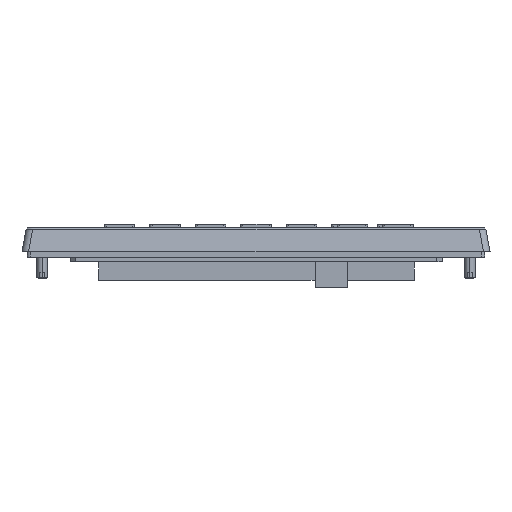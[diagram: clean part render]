
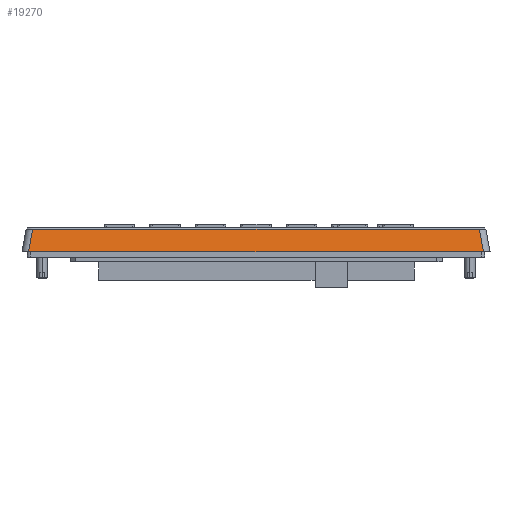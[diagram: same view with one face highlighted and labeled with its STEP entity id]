
A CAD part, left-side view. The second image highlights one B-rep face of the part: STEP entity #19270.
In plain terms, the highlighted planar face has unit normal (-0.985, 0, 0.174).
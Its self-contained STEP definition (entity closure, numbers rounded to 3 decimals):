
#2710=CARTESIAN_POINT('',(-51.32,93.559,
58.158));
#2720=VERTEX_POINT('',#2710);
#2750=CARTESIAN_POINT('',(-51.32,93.559,
58.158));
#2760=CARTESIAN_POINT('',(-51.32,93.588,
58.158));
#2770=CARTESIAN_POINT('',(-51.32,93.622,
58.158));
#2780=CARTESIAN_POINT('',(-51.32,121.464,
58.158));
#2790=CARTESIAN_POINT('',(-51.32,149.28,
58.158));
#2800=CARTESIAN_POINT('',(-51.32,204.913,
58.158));
#2810=CARTESIAN_POINT('',(-51.32,232.73,
58.158));
#2820=CARTESIAN_POINT('',(-51.32,260.572,
58.158));
#2830=CARTESIAN_POINT('',(-51.32,260.605,
58.158));
#2840=CARTESIAN_POINT('',(-51.32,260.635,
58.158));
#2850=B_SPLINE_CURVE_WITH_KNOTS('',3,(#2750,#2760,#2770,#2780,#2790,
#2800,#2810,#2820,#2830,#2840),.UNSPECIFIED.,.F.,.F.,(4,2,2,2,4),(0.,
0.076,83.526,166.975,167.051),
.UNSPECIFIED.);
#2860=CARTESIAN_POINT('',(-51.32,260.635,
58.158));
#2870=VERTEX_POINT('',#2860);
#2880=EDGE_CURVE('',#2720,#2870,#2850,.T.);
#6170=CARTESIAN_POINT('',(-52.82,92.059,
49.65));
#6180=VERTEX_POINT('',#6170);
#6210=CARTESIAN_POINT('',(-51.157,93.722,
59.084));
#6220=DIRECTION('',(0.171,0.171,
0.97));
#6230=VECTOR('',#6220,1.);
#6240=LINE('',#6210,#6230);
#6250=EDGE_CURVE('',#6180,#2720,#6240,.T.);
#6360=CARTESIAN_POINT('',(-51.157,260.471,
59.084));
#6370=DIRECTION('',(0.171,-0.171,
0.97));
#6380=VECTOR('',#6370,1.);
#6390=LINE('',#6360,#6380);
#6400=CARTESIAN_POINT('',(-52.82,262.135,
49.65));
#6410=VERTEX_POINT('',#6400);
#6420=EDGE_CURVE('',#6410,#2870,#6390,.T.);
#18430=CARTESIAN_POINT('',(-52.82,89.597,
49.65));
#18440=DIRECTION('',(0.,1.,0.));
#18450=VECTOR('',#18440,1.);
#18460=LINE('',#18430,#18450);
#18470=EDGE_CURVE('',#6180,#6410,#18460,.T.);
#19160=CARTESIAN_POINT('',(-52.82,96.595,
49.65));
#19170=DIRECTION('',(0.985,0.,-0.174));
#19180=DIRECTION('',(0.,-1.,0.));
#19190=AXIS2_PLACEMENT_3D('',#19160,#19170,#19180);
#19200=PLANE('',#19190);
#19210=ORIENTED_EDGE('',*,*,#18470,.F.);
#19220=ORIENTED_EDGE('',*,*,#6420,.F.);
#19230=ORIENTED_EDGE('',*,*,#2880,.T.);
#19240=ORIENTED_EDGE('',*,*,#6250,.T.);
#19250=EDGE_LOOP('',(#19240,#19230,#19220,#19210));
#19260=FACE_OUTER_BOUND('',#19250,.T.);
#19270=ADVANCED_FACE('',(#19260),#19200,.F.);
